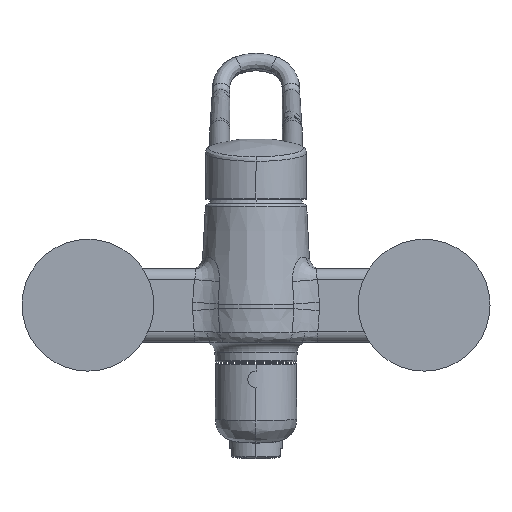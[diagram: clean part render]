
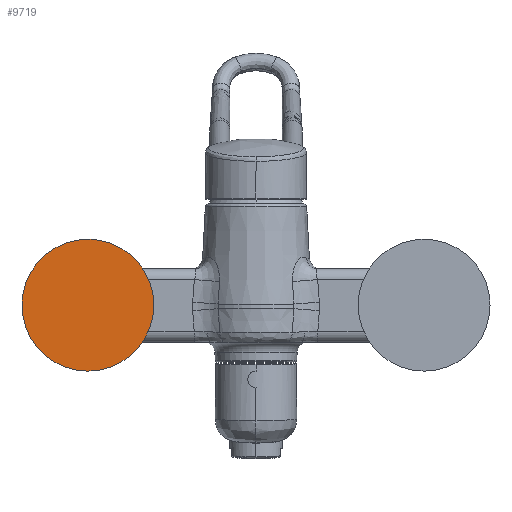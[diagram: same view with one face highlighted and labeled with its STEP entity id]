
A CAD part, top view. The second image highlights one B-rep face of the part: STEP entity #9719.
In plain terms, the highlighted planar face has unit normal (0, 0, 1).
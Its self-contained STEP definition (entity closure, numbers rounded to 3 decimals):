
#9544=CARTESIAN_POINT('',(-76.5,0.45,75.3));
#9545=DIRECTION('',(0.,0.,-1.));
#9546=DIRECTION('',(1.,0.,0.));
#9547=AXIS2_PLACEMENT_3D('',#9544,#9545,#9546);
#9553=CARTESIAN_POINT('',(-76.5,0.45,75.3));
#9554=DIRECTION('',(0.,0.,1.));
#9555=DIRECTION('',(1.,0.,0.));
#9556=AXIS2_PLACEMENT_3D('',#9553,#9554,#9555);
#9607=CARTESIAN_POINT('',(-46.5,0.45,75.3));
#9608=VERTEX_POINT('',#9607);
#9609=CARTESIAN_POINT('',(-106.5,0.45,75.3));
#9610=VERTEX_POINT('',#9609);
#9710=CARTESIAN_POINT('',(122.497,138.123,75.3));
#9711=DIRECTION('',(0.,0.,-1.));
#9712=DIRECTION('',(-1.,0.,0.));
#9713=AXIS2_PLACEMENT_3D('',#9710,#9711,#9712);
#9714=PLANE('',#9713);
#9715=ORIENTED_EDGE('',*,*,#9704,.F.);
#9716=ORIENTED_EDGE('',*,*,#9690,.T.);
#9717=EDGE_LOOP('',(#9715,#9716));
#9718=FACE_OUTER_BOUND('',#9717,.F.);
#9719=ADVANCED_FACE('',(#9718),#9714,.F.);
#9548=CIRCLE('',#9547,30.);
#9557=CIRCLE('',#9556,30.);
#9690=EDGE_CURVE('',#9608,#9610,#9548,.T.);
#9704=EDGE_CURVE('',#9608,#9610,#9557,.T.);
